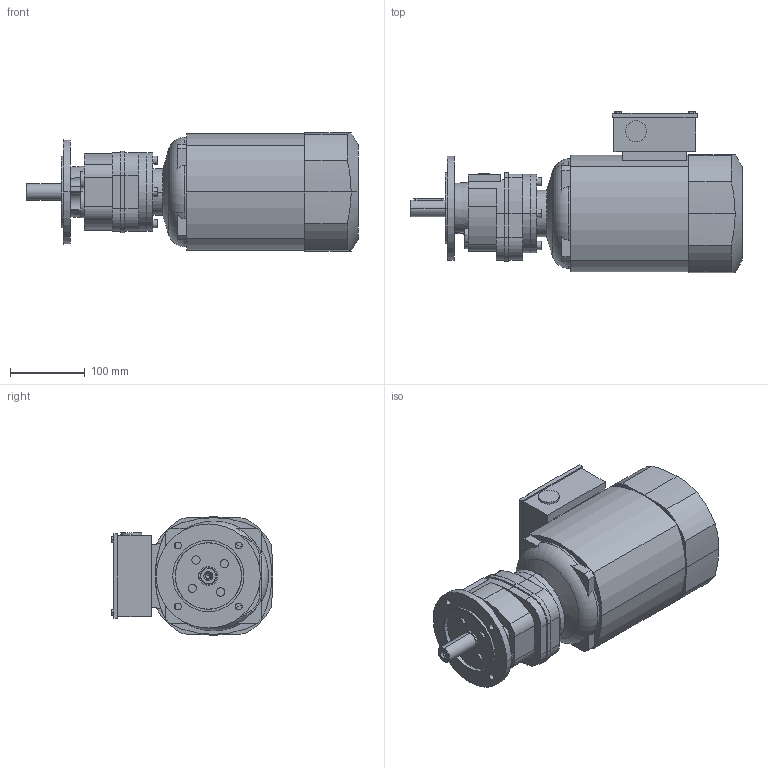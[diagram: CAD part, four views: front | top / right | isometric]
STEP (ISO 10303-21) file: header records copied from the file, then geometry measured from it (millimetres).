
FILE_DESCRIPTION(('STEP AP214'),'1');
FILE_NAME('STEP-File.stp','2018-01-01T00:00:00',(' '),('KEB'),' ','KEB-DRIVE',' ');
FILE_SCHEMA(('AUTOMOTIVE_DESIGN { 1 0 10303 214 1 1 1 1 }'));
Length unit declared in the file: millimetre
Products named in the file (9): g0b; w0_we_22x50; c0_140; cm0; dm90l_kkn; kk08; PLUG_M25; ndm90; ZG02 DM80GD4§CAD13
Assembly tree (8 placements, depth 2):
  ZG02 DM80GD4§CAD13
    g0b
    w0_we_22x50
    c0_140
    cm0
    dm90l_kkn
    kk08
    PLUG_M25
    ndm90
Bounding box: 443.5 x 215.4 x 157.8 mm (x, y, z)
Volume: 7064161 mm3; surface area: 419662 mm2
Topology: 8 solids, 8 shells, 408 faces, 1165 edges, 910 vertices
Faces by surface type: plane 247, cylinder 103, cone 54, torus 4
Entity records: 15481 total; most frequent: CARTESIAN_POINT 4992, ORIENTED_EDGE 2326, DIRECTION 1674, EDGE_CURVE 1163, VERTEX_POINT 910, VECTOR 786, LINE 786, EDGE_LOOP 555
